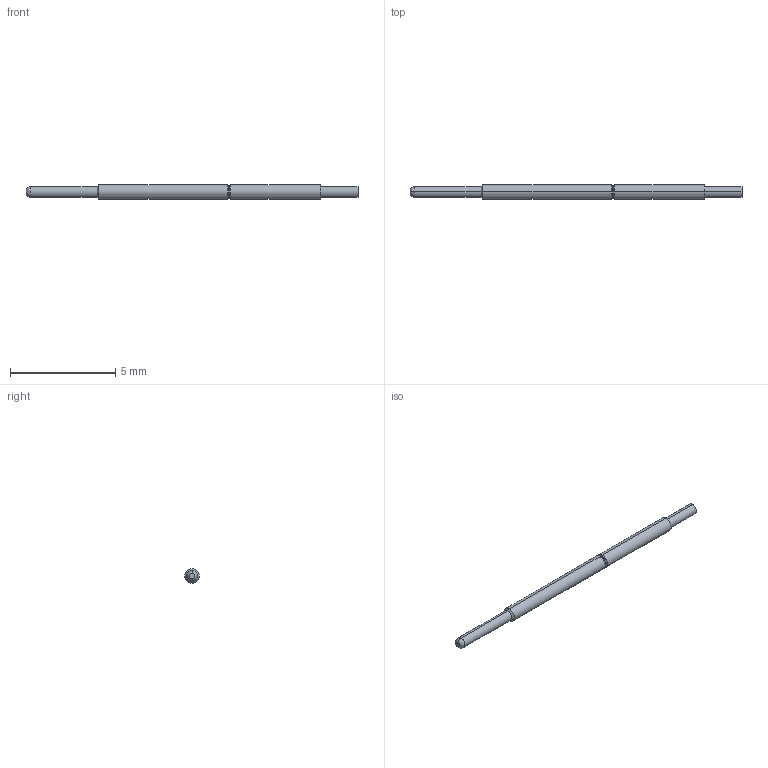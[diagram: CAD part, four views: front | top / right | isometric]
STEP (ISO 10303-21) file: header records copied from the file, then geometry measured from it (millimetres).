
FILE_DESCRIPTION (( 'STEP AP203' ), '1' );
FILE_NAME ('100187-006-958 (REST).STEP', '2022-12-28T04:17:29', ( '' ), ( '' ), 'SwSTEP 2.0', 'SolidWorks 2022', '' );
FILE_SCHEMA (( 'CONFIG_CONTROL_DESIGN' ));
Length unit declared in the file: inch
Products named in the file (1): 100187-006-958 (REST)
Bounding box: 15.75 x 0.69 x 0.69 mm (x, y, z)
Volume: 5 mm3; surface area: 31.8 mm2
Topology: 1 solids, 1 shells, 23 faces, 44 edges, 24 vertices
Faces by surface type: torus 10, cylinder 8, plane 3, cone 2
Entity records: 663 total; most frequent: DIRECTION 126, CARTESIAN_POINT 92, ORIENTED_EDGE 88, AXIS2_PLACEMENT_3D 58, EDGE_CURVE 44, CIRCLE 34, VERTEX_POINT 24, EDGE_LOOP 24
